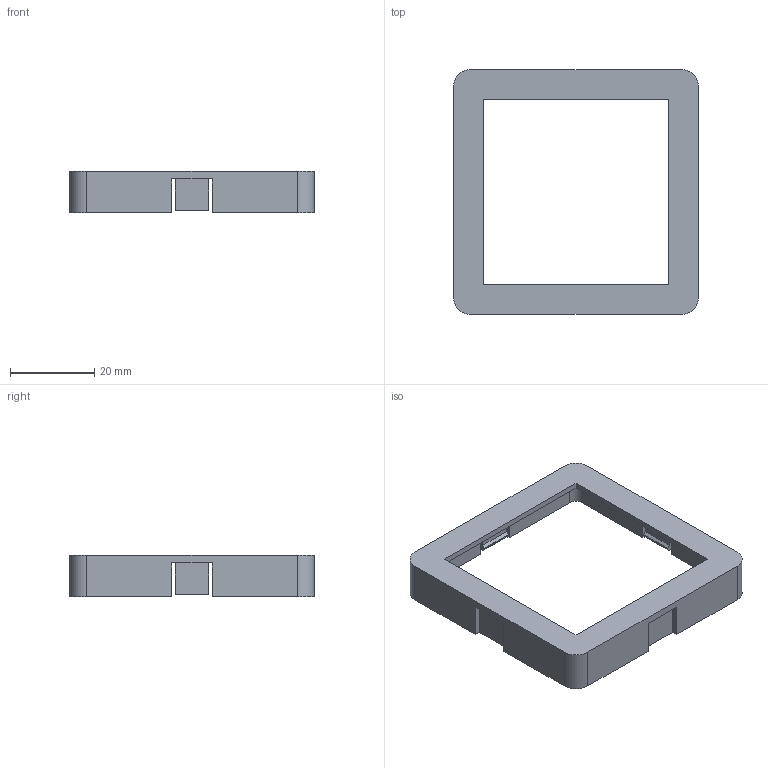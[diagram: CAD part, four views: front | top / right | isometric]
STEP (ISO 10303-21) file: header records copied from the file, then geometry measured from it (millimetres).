
FILE_DESCRIPTION(('FreeCAD Model'),'2;1');
FILE_NAME('Open CASCADE Shape Model','2026-10-02T22:08:34',('Author'),( ''),'Open CASCADE STEP processor 7.8','FreeCAD','Unknown');
FILE_SCHEMA(('AUTOMOTIVE_DESIGN { 1 0 10303 214 1 1 1 1 }'));
Length unit declared in the file: millimetre
Products named in the file (1): DiceBox_Slim_Lid
Bounding box: 58 x 58 x 9.8 mm (x, y, z)
Volume: 4925.1 mm3; surface area: 7130.6 mm2
Topology: 1 solids, 1 shells, 70 faces, 204 edges, 136 vertices
Faces by surface type: plane 62, cylinder 8
Entity records: 2298 total; most frequent: CARTESIAN_POINT 411, ORIENTED_EDGE 408, DIRECTION 362, EDGE_CURVE 204, LINE 188, VECTOR 188, VERTEX_POINT 136, AXIS2_PLACEMENT_3D 87
